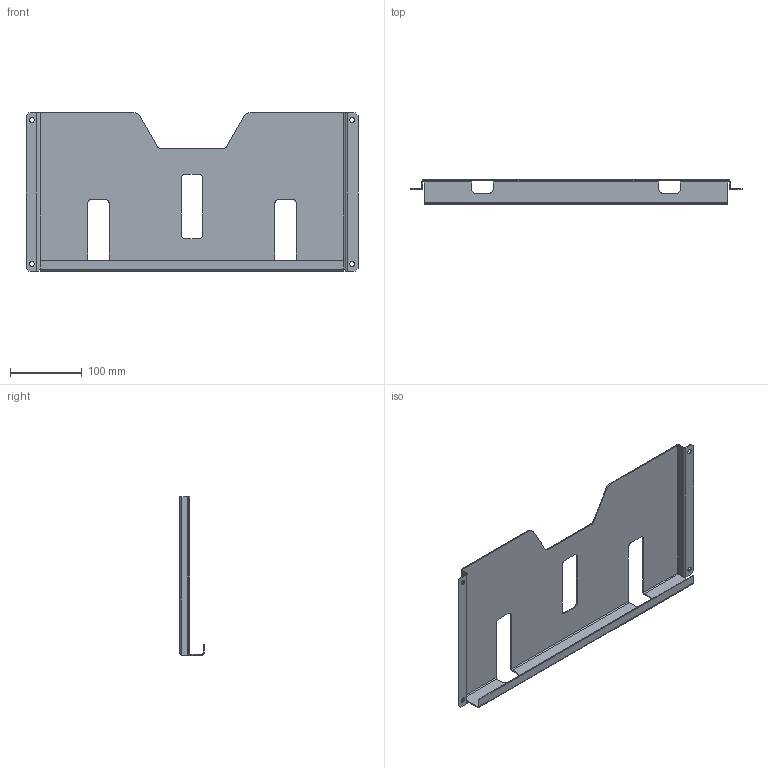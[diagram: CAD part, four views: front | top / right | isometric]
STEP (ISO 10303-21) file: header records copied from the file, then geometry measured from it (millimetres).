
FILE_DESCRIPTION (( 'STEP AP203' ), '1' );
FILE_NAME ('DP 60 M Êàðìàí äëÿ äîêóìåíòàöèè v2.STEP', '2021-01-19T13:12:32', ( '' ), ( '' ), 'SwSTEP 2.0', 'SolidWorks 2018', '' );
FILE_SCHEMA (( 'CONFIG_CONTROL_DESIGN' ));
Length unit declared in the file: millimetre
Products named in the file (1): DP 60 M Êàðìàí äëÿ äîêóìåíòàöèè v2
Bounding box: 461.2 x 34 x 220 mm (x, y, z)
Volume: 152654.1 mm3; surface area: 221474.4 mm2
Topology: 1 solids, 1 shells, 104 faces, 270 edges, 164 vertices
Faces by surface type: plane 64, cylinder 40
Entity records: 3235 total; most frequent: DIRECTION 560, ORIENTED_EDGE 540, CARTESIAN_POINT 539, EDGE_CURVE 270, VECTOR 190, LINE 190, AXIS2_PLACEMENT_3D 185, VERTEX_POINT 164
